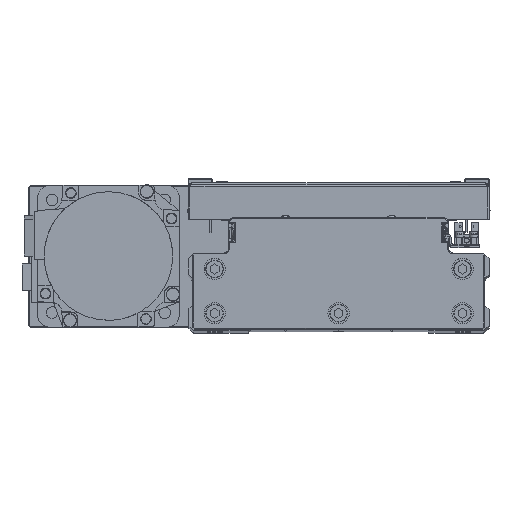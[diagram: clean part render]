
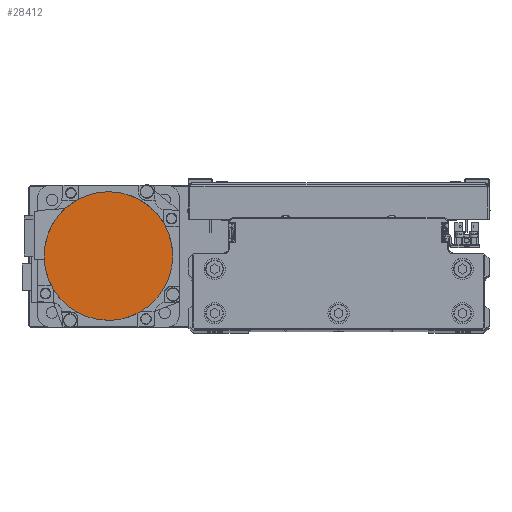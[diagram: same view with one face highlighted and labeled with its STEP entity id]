
A CAD part, top view. The second image highlights one B-rep face of the part: STEP entity #28412.
In plain terms, the highlighted planar face has unit normal (0, 0, 1) as drawn and (0, 0, -1) by its records, which use the part's own axes.
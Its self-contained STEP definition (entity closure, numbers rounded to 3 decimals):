
#2 = CARTESIAN_POINT ( 'NONE',  ( -36.3, 2.376, -122.2 ) ) ;
#399 = CARTESIAN_POINT ( 'NONE',  ( 0., -36.3, -122.2 ) ) ;
#1263 = CARTESIAN_POINT ( 'NONE',  ( 0., 0., -122.2 ) ) ;
#2430 = CARTESIAN_POINT ( 'NONE',  ( -35.139, -9.412, -122.2 ) ) ;
#2650 = CARTESIAN_POINT ( 'NONE',  ( -2.376, -36.3, -122.2 ) ) ;
#3167 = CARTESIAN_POINT ( 'NONE',  ( 0., 36.3, -122.2 ) ) ;
#3386 = CARTESIAN_POINT ( 'NONE',  ( -34.446, 11.696, -122.2 ) ) ;
#4025 = CARTESIAN_POINT ( 'NONE',  ( -36.3, 0., -122.2 ) ) ;
#4247 = DIRECTION ( 'NONE',  ( 0., 0., 1. ) ) ;
#4815 = EDGE_CURVE ( 'NONE', #25082, #31587, #36736, .T. ) ;
#5797 = CARTESIAN_POINT ( 'NONE',  ( -36.3, 0., -122.2 ) ) ;
#6024 = CARTESIAN_POINT ( 'NONE',  ( -11.696, -34.446, -122.2 ) ) ;
#6670 = VERTEX_POINT ( 'NONE', #4025 ) ;
#6759 = CARTESIAN_POINT ( 'NONE',  ( -28.862, 22.143, -122.2 ) ) ;
#7220 = DIRECTION ( 'NONE',  ( -1., 0., 0. ) ) ;
#8749 = EDGE_CURVE ( 'NONE', #31306, #6670, #26862, .T. ) ;
#9396 = CARTESIAN_POINT ( 'NONE',  ( -22.143, -28.862, -122.2 ) ) ;
#10135 = CARTESIAN_POINT ( 'NONE',  ( -22.143, 28.862, -122.2 ) ) ;
#12297 = AXIS2_PLACEMENT_3D ( 'NONE', #35088, #4247, #17995 ) ;
#12792 = CARTESIAN_POINT ( 'NONE',  ( -28.862, -22.143, -122.2 ) ) ;
#13523 = CARTESIAN_POINT ( 'NONE',  ( -11.696, 34.446, -122.2 ) ) ;
#13539 = EDGE_CURVE ( 'NONE', #31587, #31306, #31708, .T. ) ;
#13742 = CARTESIAN_POINT ( 'NONE',  ( -36.3, 0., -122.2 ) ) ;
#14993 = DIRECTION ( 'NONE',  ( 0., 0., 1. ) ) ;
#16173 = CARTESIAN_POINT ( 'NONE',  ( -34.446, -11.696, -122.2 ) ) ;
#16392 = CARTESIAN_POINT ( 'NONE',  ( 0., -36.3, -122.2 ) ) ;
#16914 = CARTESIAN_POINT ( 'NONE',  ( -2.376, 36.3, -122.2 ) ) ;
#17132 = CARTESIAN_POINT ( 'NONE',  ( -35.139, 9.412, -122.2 ) ) ;
#17344 = AXIS2_PLACEMENT_3D ( 'NONE', #24362, #38075, #7220 ) ;
#17995 = DIRECTION ( 'NONE',  ( -1., 0., 0. ) ) ;
#18072 = ORIENTED_EDGE ( 'NONE', *, *, #13539, .F. ) ;
#18387 = FACE_OUTER_BOUND ( 'NONE', #26577, .T. ) ;
#18596 = ORIENTED_EDGE ( 'NONE', *, *, #8749, .F. ) ;
#19413 = B_SPLINE_CURVE_WITH_KNOTS ( 'NONE', 3,
 ( #5797, #19558, #33282, #2430, #16173, #29901, #43623, #12792, #26527, #40238, #9396, #23157, #36879, #6024, #19780, #33501, #2650, #16392 ),
 .UNSPECIFIED., .F., .F.,
 ( 4, 2, 2, 2, 2, 2, 2, 2, 4 ),
 ( 0., 0.125, 0.25, 0.375, 0.5, 0.625, 0.75, 0.875, 1. ),
 .UNSPECIFIED. ) ;
#19558 = CARTESIAN_POINT ( 'NONE',  ( -36.3, -2.376, -122.2 ) ) ;
#19780 = CARTESIAN_POINT ( 'NONE',  ( -9.412, -35.139, -122.2 ) ) ;
#20515 = CARTESIAN_POINT ( 'NONE',  ( -31.502, 18.192, -122.2 ) ) ;
#21228 = EDGE_CURVE ( 'NONE', #6670, #25082, #19413, .T. ) ;
#23157 = CARTESIAN_POINT ( 'NONE',  ( -18.192, -31.502, -122.2 ) ) ;
#23899 = CARTESIAN_POINT ( 'NONE',  ( -23.988, 27.348, -122.2 ) ) ;
#24362 = CARTESIAN_POINT ( 'NONE',  ( 0., 0., -122.2 ) ) ;
#25082 = VERTEX_POINT ( 'NONE', #399 ) ;
#26527 = CARTESIAN_POINT ( 'NONE',  ( -27.348, -23.988, -122.2 ) ) ;
#26577 = EDGE_LOOP ( 'NONE', ( #42055, #26605, #18596, #18072 ) ) ;
#26605 = ORIENTED_EDGE ( 'NONE', *, *, #21228, .F. ) ;
#26862 = B_SPLINE_CURVE_WITH_KNOTS ( 'NONE', 3,
 ( #3167, #16914, #30638, #44354, #13523, #27250, #40974, #10135, #23899, #37612, #6759, #20515, #34227, #3386, #17132, #30857, #2, #13742 ),
 .UNSPECIFIED., .F., .F.,
 ( 4, 2, 2, 2, 2, 2, 2, 2, 4 ),
 ( 0., 0.125, 0.25, 0.375, 0.5, 0.625, 0.75, 0.875, 1. ),
 .UNSPECIFIED. ) ;
#27250 = CARTESIAN_POINT ( 'NONE',  ( -16.086, 32.628, -122.2 ) ) ;
#28412 = ADVANCED_FACE ( 'NONE', ( #18387 ), #32112, .F. ) ;
#28500 = CARTESIAN_POINT ( 'NONE',  ( 36.3, 0., -122.2 ) ) ;
#28733 = DIRECTION ( 'NONE',  ( 1., 0., 0. ) ) ;
#29901 = CARTESIAN_POINT ( 'NONE',  ( -32.628, -16.086, -122.2 ) ) ;
#30638 = CARTESIAN_POINT ( 'NONE',  ( -4.752, 36.066, -122.2 ) ) ;
#30857 = CARTESIAN_POINT ( 'NONE',  ( -36.066, 4.752, -122.2 ) ) ;
#31306 = VERTEX_POINT ( 'NONE', #42720 ) ;
#31587 = VERTEX_POINT ( 'NONE', #28500 ) ;
#31708 = CIRCLE ( 'NONE', #12297, 36.3 ) ;
#32112 = PLANE ( 'NONE',  #40216 ) ;
#33282 = CARTESIAN_POINT ( 'NONE',  ( -36.066, -4.752, -122.2 ) ) ;
#33501 = CARTESIAN_POINT ( 'NONE',  ( -4.752, -36.066, -122.2 ) ) ;
#34227 = CARTESIAN_POINT ( 'NONE',  ( -32.628, 16.086, -122.2 ) ) ;
#35088 = CARTESIAN_POINT ( 'NONE',  ( 0., 0., -122.2 ) ) ;
#36736 = CIRCLE ( 'NONE', #17344, 36.3 ) ;
#36879 = CARTESIAN_POINT ( 'NONE',  ( -16.086, -32.628, -122.2 ) ) ;
#37612 = CARTESIAN_POINT ( 'NONE',  ( -27.348, 23.988, -122.2 ) ) ;
#38075 = DIRECTION ( 'NONE',  ( 0., 0., 1. ) ) ;
#40216 = AXIS2_PLACEMENT_3D ( 'NONE', #1263, #14993, #28733 ) ;
#40238 = CARTESIAN_POINT ( 'NONE',  ( -23.988, -27.348, -122.2 ) ) ;
#40974 = CARTESIAN_POINT ( 'NONE',  ( -18.192, 31.502, -122.2 ) ) ;
#42055 = ORIENTED_EDGE ( 'NONE', *, *, #4815, .F. ) ;
#42720 = CARTESIAN_POINT ( 'NONE',  ( 0., 36.3, -122.2 ) ) ;
#43623 = CARTESIAN_POINT ( 'NONE',  ( -31.502, -18.192, -122.2 ) ) ;
#44354 = CARTESIAN_POINT ( 'NONE',  ( -9.412, 35.139, -122.2 ) ) ;
